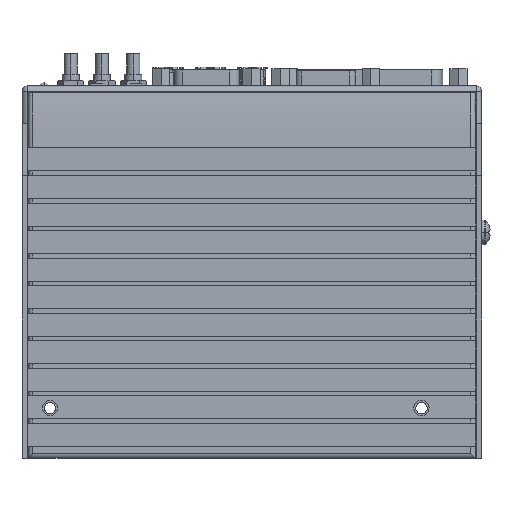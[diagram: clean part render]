
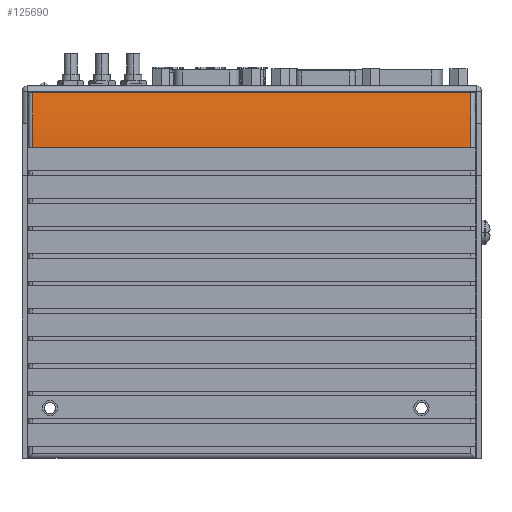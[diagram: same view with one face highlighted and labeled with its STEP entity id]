
A CAD part, left-side view. The second image highlights one B-rep face of the part: STEP entity #125690.
In plain terms, the highlighted cylindrical face has radius 95.335 mm (diameter 190.669 mm), a partial arc.
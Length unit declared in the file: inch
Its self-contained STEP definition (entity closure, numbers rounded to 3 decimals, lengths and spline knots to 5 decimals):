
#42112=CARTESIAN_POINT('',(2.98833,0.05,1.3152));
#42113=DIRECTION('',(0.,-1.,0.));
#42114=DIRECTION('',(-0.984,0.,0.179));
#42115=AXIS2_PLACEMENT_3D('',#42112,#42113,#42114);
#42122=DIRECTION('',(0.,1.,0.));
#42123=VECTOR('',#42122,4.78);
#42124=CARTESIAN_POINT('',(-0.76435,0.05,1.385));
#42125=LINE('',#42124,#42123);
#43861=CARTESIAN_POINT('',(2.98833,4.83,1.3152));
#43862=DIRECTION('',(0.,1.,0.));
#43863=DIRECTION('',(-1.,0.,0.019));
#43864=AXIS2_PLACEMENT_3D('',#43861,#43862,#43863);
#43866=CARTESIAN_POINT('',(-0.70426,4.83,1.98769));
#43914=DIRECTION('',(0.,1.,0.));
#43915=VECTOR('',#43914,4.78);
#43916=CARTESIAN_POINT('',(-0.70426,0.05,
1.98769));
#43917=LINE('',#43916,#43915);
#51263=VERTEX_POINT('',#43866);
#51265=CARTESIAN_POINT('',(-0.70426,0.05,
1.98769));
#51266=VERTEX_POINT('',#51265);
#51269=CARTESIAN_POINT('',(-0.76435,0.05,1.385));
#51270=CARTESIAN_POINT('',(-0.76435,4.83,1.385));
#51271=VERTEX_POINT('',#51269);
#51272=VERTEX_POINT('',#51270);
#125679=CARTESIAN_POINT('',(2.98833,0.,1.3152));
#125680=DIRECTION('',(0.,1.,0.));
#125681=DIRECTION('',(1.,0.,0.));
#125682=AXIS2_PLACEMENT_3D('',#125679,#125680,#125681);
#125683=CYLINDRICAL_SURFACE('',#125682,3.75333);
#125684=ORIENTED_EDGE('',*,*,#122999,.T.);
#125685=ORIENTED_EDGE('',*,*,#125604,.T.);
#125686=ORIENTED_EDGE('',*,*,#125671,.F.);
#125687=ORIENTED_EDGE('',*,*,#122981,.T.);
#125688=EDGE_LOOP('',(#125684,#125685,#125686,#125687));
#125689=FACE_OUTER_BOUND('',#125688,.F.);
#125690=ADVANCED_FACE('',(#125689),#125683,.T.);
#42116=CIRCLE('',#42115,3.75333);
#43865=CIRCLE('',#43864,3.75333);
#122981=EDGE_CURVE('',#51266,#51271,#42116,.T.);
#122999=EDGE_CURVE('',#51271,#51272,#42125,.T.);
#125604=EDGE_CURVE('',#51272,#51263,#43865,.T.);
#125671=EDGE_CURVE('',#51266,#51263,#43917,.T.);
